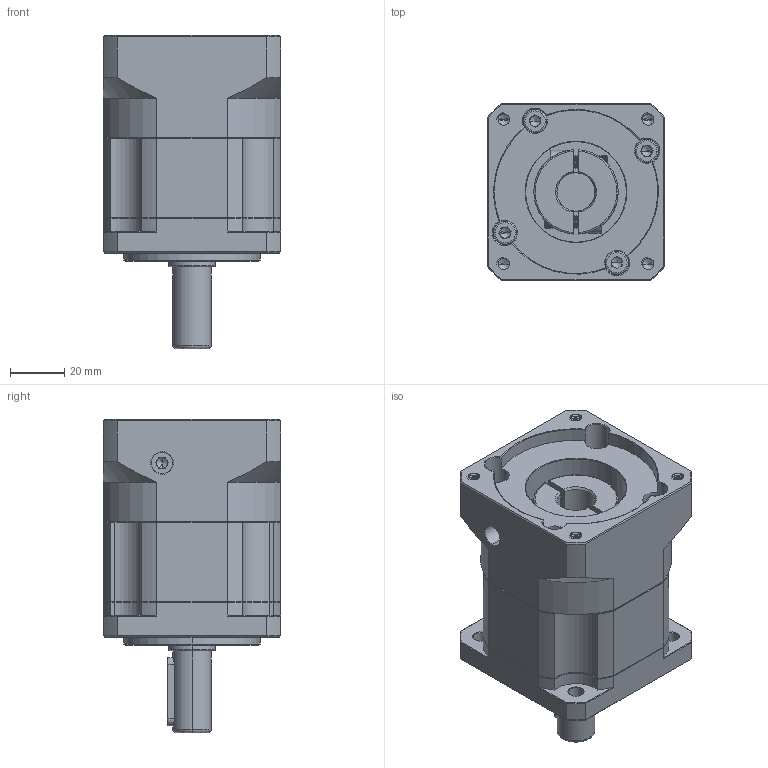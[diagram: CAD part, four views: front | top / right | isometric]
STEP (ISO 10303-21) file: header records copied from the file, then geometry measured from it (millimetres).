
FILE_DESCRIPTION (( 'STEP AP214' ), '1' );
FILE_NAME ('ZB60-D14-L1-14-60-75-M5.STEP', '2022-04-17T07:37:09', ( '' ), ( 'Microsoft' ), 'SwSTEP 2.0', 'SolidWorks 2016', '' );
FILE_SCHEMA (( 'AUTOMOTIVE_DESIGN' ));
Length unit declared in the file: millimetre
Products named in the file (1): ZB60-D14-L1-14-60-75-M5
Bounding box: 65 x 65 x 115 mm (x, y, z)
Volume: 264813.2 mm3; surface area: 54456.3 mm2
Topology: 6 solids, 6 shells, 1894 faces, 5036 edges, 3221 vertices
Faces by surface type: plane 879, cylinder 396, bspline 299, cone 284, torus 36
Entity records: 102095 total; most frequent: CARTESIAN_POINT 36598, ORIENTED_EDGE 10012, DIRECTION 8205, EDGE_CURVE 5006, VERTEX_POINT 3221, LINE 3037, VECTOR 3037, AXIS2_PLACEMENT_3D 2584
